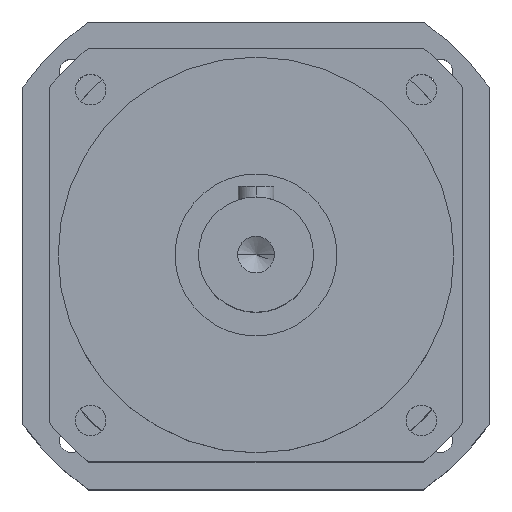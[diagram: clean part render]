
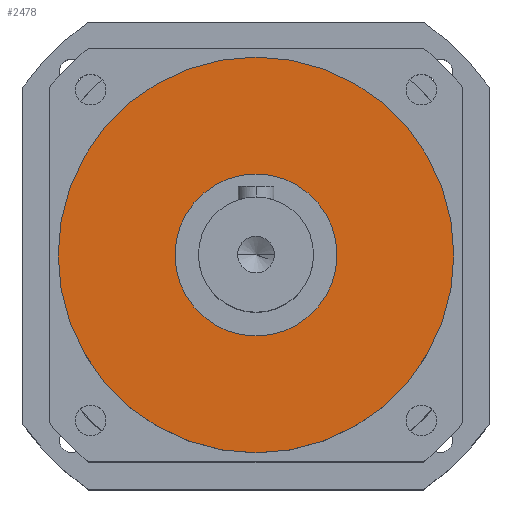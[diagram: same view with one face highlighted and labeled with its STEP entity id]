
A CAD part, top view. The second image highlights one B-rep face of the part: STEP entity #2478.
In plain terms, the highlighted planar face has unit normal (0, 0, 1).
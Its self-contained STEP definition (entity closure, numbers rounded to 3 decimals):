
#222 = AXIS2_PLACEMENT_3D ( 'NONE', #6596, #6597, #6598 ) ;
#264 = AXIS2_PLACEMENT_3D ( 'NONE', #8120, #8121, #5847 ) ;
#360 = AXIS2_PLACEMENT_3D ( 'NONE', #1651, #1652, #1653 ) ;
#399 = AXIS2_PLACEMENT_3D ( 'NONE', #9903, #9905, #9907 ) ;
#1651 = CARTESIAN_POINT ( 'NONE',  ( 0., 0., 68. ) ) ;
#1652 = DIRECTION ( 'NONE',  ( 0., 0., -1. ) ) ;
#1653 = DIRECTION ( 'NONE',  ( 0., 1., 0. ) ) ;
#2000 = CARTESIAN_POINT ( 'NONE',  ( 0., 55., 68. ) ) ;
#2009 = CARTESIAN_POINT ( 'NONE',  ( 0., -22.5, 68. ) ) ;
#2011 = CARTESIAN_POINT ( 'NONE',  ( 0., 22.5, 68. ) ) ;
#2077 = CARTESIAN_POINT ( 'NONE',  ( 0., -55., 68. ) ) ;
#2478 = ADVANCED_FACE ( 'NONE', ( #9071, #9058 ), #3614, .T. ) ;
#3611 = CARTESIAN_POINT ( 'NONE',  ( 0., 22.5, 68. ) ) ;
#3614 = PLANE ( 'NONE',  #6333 ) ;
#3616 = DIRECTION ( 'NONE',  ( 0., 0., 1. ) ) ;
#3617 = DIRECTION ( 'NONE',  ( 0., -1., 0. ) ) ;
#4249 = EDGE_CURVE ( 'NONE', #10075, #10077, #8304, .T. ) ;
#4334 = EDGE_CURVE ( 'NONE', #10143, #10066, #8180, .T. ) ;
#5847 = DIRECTION ( 'NONE',  ( 0., 1., 0. ) ) ;
#6333 = AXIS2_PLACEMENT_3D ( 'NONE', #3611, #3616, #3617 ) ;
#6596 = CARTESIAN_POINT ( 'NONE',  ( 0., 0., 68. ) ) ;
#6597 = DIRECTION ( 'NONE',  ( 0., 0., -1. ) ) ;
#6598 = DIRECTION ( 'NONE',  ( 0., 1., 0. ) ) ;
#6653 = EDGE_CURVE ( 'NONE', #10066, #10143, #7034, .T. ) ;
#6847 = CIRCLE ( 'NONE', #399, 22.5 ) ;
#7034 = CIRCLE ( 'NONE', #360, 55. ) ;
#8120 = CARTESIAN_POINT ( 'NONE',  ( 0., 0., 68. ) ) ;
#8121 = DIRECTION ( 'NONE',  ( 0., 0., -1. ) ) ;
#8127 = EDGE_CURVE ( 'NONE', #10077, #10075, #6847, .T. ) ;
#8180 = CIRCLE ( 'NONE', #264, 55. ) ;
#8304 = CIRCLE ( 'NONE', #222, 22.5 ) ;
#9058 = FACE_OUTER_BOUND ( 'NONE', #10604, .T. ) ;
#9071 = FACE_BOUND ( 'NONE', #10819, .T. ) ;
#9903 = CARTESIAN_POINT ( 'NONE',  ( 0., 0., 68. ) ) ;
#9905 = DIRECTION ( 'NONE',  ( 0., 0., -1. ) ) ;
#9907 = DIRECTION ( 'NONE',  ( 0., 1., 0. ) ) ;
#10066 = VERTEX_POINT ( 'NONE', #2000 ) ;
#10075 = VERTEX_POINT ( 'NONE', #2009 ) ;
#10077 = VERTEX_POINT ( 'NONE', #2011 ) ;
#10143 = VERTEX_POINT ( 'NONE', #2077 ) ;
#10320 = ORIENTED_EDGE ( 'NONE', *, *, #6653, .F. ) ;
#10323 = ORIENTED_EDGE ( 'NONE', *, *, #8127, .T. ) ;
#10327 = ORIENTED_EDGE ( 'NONE', *, *, #4249, .T. ) ;
#10333 = ORIENTED_EDGE ( 'NONE', *, *, #4334, .F. ) ;
#10604 = EDGE_LOOP ( 'NONE', ( #10320, #10333 ) ) ;
#10819 = EDGE_LOOP ( 'NONE', ( #10323, #10327 ) ) ;
